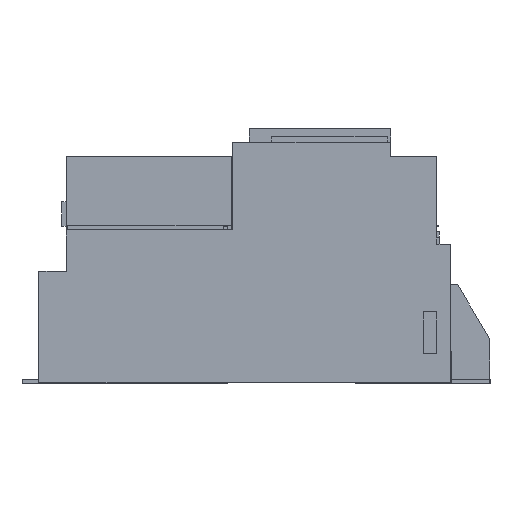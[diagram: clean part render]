
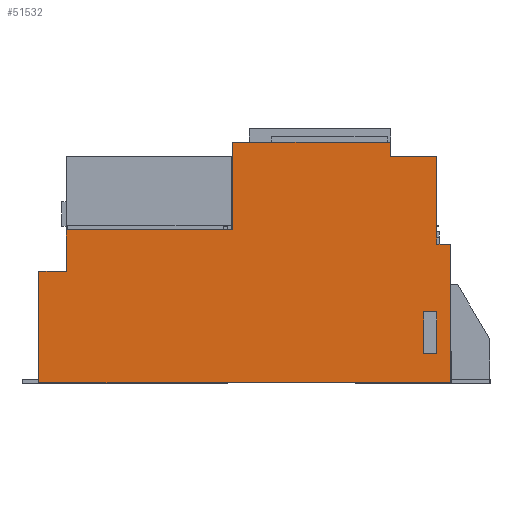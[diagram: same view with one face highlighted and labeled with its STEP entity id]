
A CAD part, left-side view. The second image highlights one B-rep face of the part: STEP entity #51532.
In plain terms, the highlighted planar face has unit normal (-1, 0, 0).
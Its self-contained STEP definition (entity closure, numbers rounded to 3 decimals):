
#12068=DIRECTION('',(0.,0.,-1.));
#12069=VECTOR('',#12068,81.05);
#12070=CARTESIAN_POINT('',(0.,300.,81.05));
#12071=LINE('',#12070,#12069);
#12242=DIRECTION('',(0.,1.,0.));
#12243=VECTOR('',#12242,20.);
#12244=CARTESIAN_POINT('',(0.,280.,81.05));
#12245=LINE('',#12244,#12243);
#13276=DIRECTION('',(0.,0.,-1.));
#13277=VECTOR('',#13276,30.126);
#13278=CARTESIAN_POINT('',(0.,280.,111.176));
#13279=LINE('',#13278,#13277);
#13340=DIRECTION('',(0.,1.,0.));
#13341=VECTOR('',#13340,121.2);
#13342=CARTESIAN_POINT('',(0.,158.8,111.176));
#13343=LINE('',#13342,#13341);
#14982=DIRECTION('',(0.,0.,1.));
#14983=VECTOR('',#14982,10.);
#14984=CARTESIAN_POINT('',(0.,43.8,165.));
#14985=LINE('',#14984,#14983);
#15003=DIRECTION('',(0.,1.,0.));
#15004=VECTOR('',#15003,33.8);
#15005=CARTESIAN_POINT('',(0.,10.,165.));
#15006=LINE('',#15005,#15004);
#15045=DIRECTION('',(0.,0.,1.));
#15046=VECTOR('',#15045,64.1);
#15047=CARTESIAN_POINT('',(0.,10.,100.9));
#15048=LINE('',#15047,#15046);
#16245=DIRECTION('',(0.,0.,1.));
#16246=VECTOR('',#16245,63.824);
#16247=CARTESIAN_POINT('',(0.,158.8,111.176));
#16248=LINE('',#16247,#16246);
#16252=DIRECTION('',(0.,-1.,0.));
#16253=VECTOR('',#16252,115.);
#16254=CARTESIAN_POINT('',(0.,158.8,175.));
#16255=LINE('',#16254,#16253);
#16259=DIRECTION('',(0.,-1.,0.));
#16260=VECTOR('',#16259,10.);
#16261=CARTESIAN_POINT('',(0.,10.,100.9));
#16262=LINE('',#16261,#16260);
#16266=DIRECTION('',(0.,0.,-1.));
#16267=VECTOR('',#16266,100.9);
#16268=CARTESIAN_POINT('',(0.,0.,100.9));
#16269=LINE('',#16268,#16267);
#16273=DIRECTION('',(0.,1.,0.));
#16274=VECTOR('',#16273,300.);
#16275=CARTESIAN_POINT('',(0.,0.,0.));
#16276=LINE('',#16275,#16274);
#16280=DIRECTION('',(0.,1.,0.));
#16281=VECTOR('',#16280,9.55);
#16282=CARTESIAN_POINT('',(0.,9.97,20.97));
#16283=LINE('',#16282,#16281);
#16294=DIRECTION('',(0.,0.,1.));
#16295=VECTOR('',#16294,30.55);
#16296=CARTESIAN_POINT('',(0.,19.52,20.97));
#16297=LINE('',#16296,#16295);
#16308=DIRECTION('',(0.,-1.,0.));
#16309=VECTOR('',#16308,9.55);
#16310=CARTESIAN_POINT('',(0.,19.52,51.52));
#16311=LINE('',#16310,#16309);
#16322=DIRECTION('',(0.,0.,-1.));
#16323=VECTOR('',#16322,30.55);
#16324=CARTESIAN_POINT('',(0.,9.97,51.52));
#16325=LINE('',#16324,#16323);
#33582=CARTESIAN_POINT('',(0.,43.8,165.));
#33583=VERTEX_POINT('',#33582);
#33584=CARTESIAN_POINT('',(0.,43.8,175.));
#33585=VERTEX_POINT('',#33584);
#33618=CARTESIAN_POINT('',(0.,158.8,175.));
#33619=VERTEX_POINT('',#33618);
#34035=CARTESIAN_POINT('',(0.,280.,111.176));
#34036=CARTESIAN_POINT('',(0.,280.,81.05));
#34037=VERTEX_POINT('',#34035);
#34038=VERTEX_POINT('',#34036);
#34039=CARTESIAN_POINT('',(0.,158.8,111.176));
#34040=VERTEX_POINT('',#34039);
#34041=CARTESIAN_POINT('',(0.,10.,165.));
#34042=VERTEX_POINT('',#34041);
#34043=CARTESIAN_POINT('',(0.,10.,100.9));
#34044=VERTEX_POINT('',#34043);
#34045=CARTESIAN_POINT('',(0.,0.,100.9));
#34046=VERTEX_POINT('',#34045);
#34047=CARTESIAN_POINT('',(0.,0.,0.));
#34048=VERTEX_POINT('',#34047);
#34049=CARTESIAN_POINT('',(0.,300.,0.));
#34050=VERTEX_POINT('',#34049);
#34051=CARTESIAN_POINT('',(0.,300.,81.05));
#34052=VERTEX_POINT('',#34051);
#34053=CARTESIAN_POINT('',(0.,9.97,20.97));
#34054=CARTESIAN_POINT('',(0.,19.52,20.97));
#34055=VERTEX_POINT('',#34053);
#34056=VERTEX_POINT('',#34054);
#34057=CARTESIAN_POINT('',(0.,9.97,51.52));
#34058=VERTEX_POINT('',#34057);
#34059=CARTESIAN_POINT('',(0.,19.52,51.52));
#34060=VERTEX_POINT('',#34059);
#51503=CARTESIAN_POINT('',(0.,300.,0.));
#51504=DIRECTION('',(-1.,0.,0.));
#51505=DIRECTION('',(0.,-1.,0.));
#51506=AXIS2_PLACEMENT_3D('',#51503,#51504,#51505);
#51507=PLANE('',#51506);
#51508=ORIENTED_EDGE('',*,*,#49209,.F.);
#51509=ORIENTED_EDGE('',*,*,#49270,.F.);
#51510=ORIENTED_EDGE('',*,*,#49485,.T.);
#51511=ORIENTED_EDGE('',*,*,#50350,.T.);
#51512=ORIENTED_EDGE('',*,*,#50582,.F.);
#51513=ORIENTED_EDGE('',*,*,#50596,.F.);
#51514=ORIENTED_EDGE('',*,*,#50626,.F.);
#51515=ORIENTED_EDGE('',*,*,#50740,.T.);
#51516=ORIENTED_EDGE('',*,*,#50676,.T.);
#51517=ORIENTED_EDGE('',*,*,#48177,.T.);
#51518=ORIENTED_EDGE('',*,*,#48337,.F.);
#51519=ORIENTED_EDGE('',*,*,#48436,.F.);
#51520=EDGE_LOOP('',(#51508,#51509,#51510,#51511,#51512,#51513,#51514,#51515,
#51516,#51517,#51518,#51519));
#51521=FACE_OUTER_BOUND('',#51520,.F.);
#51523=ORIENTED_EDGE('',*,*,#51522,.F.);
#51525=ORIENTED_EDGE('',*,*,#51524,.F.);
#51527=ORIENTED_EDGE('',*,*,#51526,.F.);
#51529=ORIENTED_EDGE('',*,*,#51528,.F.);
#51530=EDGE_LOOP('',(#51523,#51525,#51527,#51529));
#51531=FACE_BOUND('',#51530,.F.);
#48177=EDGE_CURVE('',#34048,#34050,#16276,.T.);
#48337=EDGE_CURVE('',#34052,#34050,#12071,.T.);
#48436=EDGE_CURVE('',#34038,#34052,#12245,.T.);
#49209=EDGE_CURVE('',#34037,#34038,#13279,.T.);
#49270=EDGE_CURVE('',#34040,#34037,#13343,.T.);
#49485=EDGE_CURVE('',#34040,#33619,#16248,.T.);
#50350=EDGE_CURVE('',#33619,#33585,#16255,.T.);
#50582=EDGE_CURVE('',#33583,#33585,#14985,.T.);
#50596=EDGE_CURVE('',#34042,#33583,#15006,.T.);
#50626=EDGE_CURVE('',#34044,#34042,#15048,.T.);
#50676=EDGE_CURVE('',#34046,#34048,#16269,.T.);
#50740=EDGE_CURVE('',#34044,#34046,#16262,.T.);
#51522=EDGE_CURVE('',#34055,#34056,#16283,.T.);
#51524=EDGE_CURVE('',#34058,#34055,#16325,.T.);
#51526=EDGE_CURVE('',#34060,#34058,#16311,.T.);
#51528=EDGE_CURVE('',#34056,#34060,#16297,.T.);
#51532=ADVANCED_FACE('',(#51521,#51531),#51507,.T.);
